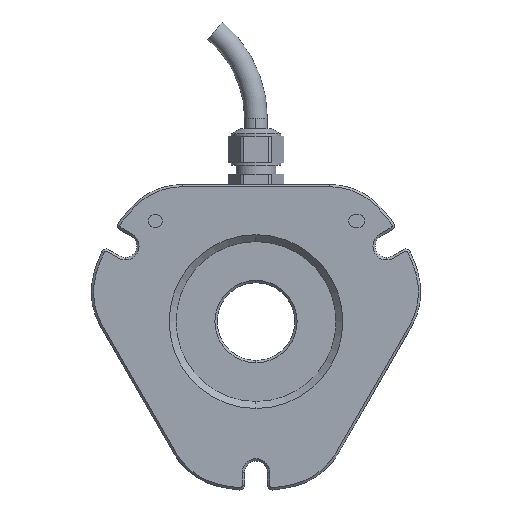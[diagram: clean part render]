
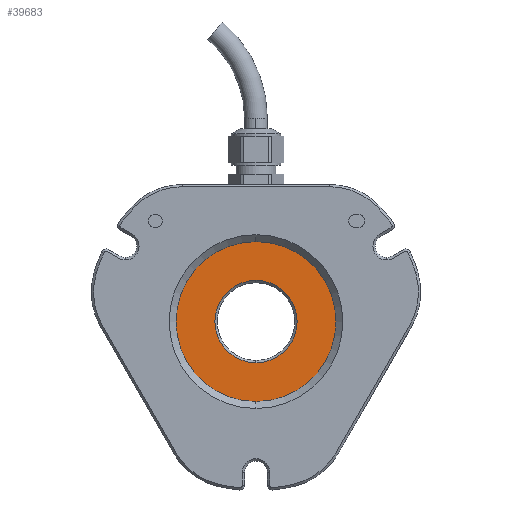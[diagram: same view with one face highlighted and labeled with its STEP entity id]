
A CAD part, front view. The second image highlights one B-rep face of the part: STEP entity #39683.
In plain terms, the highlighted planar face has unit normal (0, -1, 0).
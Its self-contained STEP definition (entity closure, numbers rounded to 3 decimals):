
#4431 = DIRECTION ( 'NONE',  ( 0., 0., -1. ) ) ;
#5015 = EDGE_CURVE ( 'NONE', #9384, #38655, #26727, .T. ) ;
#5273 = DIRECTION ( 'NONE',  ( 0., -1., 0. ) ) ;
#6648 = DIRECTION ( 'NONE',  ( 0., 0., -1. ) ) ;
#6663 = AXIS2_PLACEMENT_3D ( 'NONE', #31784, #5273, #22882 ) ;
#7588 = ORIENTED_EDGE ( 'NONE', *, *, #11031, .T. ) ;
#9384 = VERTEX_POINT ( 'NONE', #37790 ) ;
#10709 = AXIS2_PLACEMENT_3D ( 'NONE', #26912, #30687, #4431 ) ;
#11031 = EDGE_CURVE ( 'NONE', #46065, #16338, #21325, .T. ) ;
#13246 = DIRECTION ( 'NONE',  ( 0., 1., 0. ) ) ;
#16338 = VERTEX_POINT ( 'NONE', #37434 ) ;
#17331 = CARTESIAN_POINT ( 'NONE',  ( 0., 1.5, 0. ) ) ;
#18829 = PLANE ( 'NONE',  #6663 ) ;
#19667 = CARTESIAN_POINT ( 'NONE',  ( 0., 1.5, 0. ) ) ;
#21325 = CIRCLE ( 'NONE', #48868, 9. ) ;
#22882 = DIRECTION ( 'NONE',  ( 0., 0., -1. ) ) ;
#23272 = CARTESIAN_POINT ( 'NONE',  ( 0., 1.5, 0. ) ) ;
#26591 = EDGE_CURVE ( 'NONE', #38655, #9384, #40182, .T. ) ;
#26727 = CIRCLE ( 'NONE', #39604, 17.5 ) ;
#26912 = CARTESIAN_POINT ( 'NONE',  ( 0., 1.5, 0. ) ) ;
#28230 = ORIENTED_EDGE ( 'NONE', *, *, #5015, .T. ) ;
#28828 = CARTESIAN_POINT ( 'NONE',  ( 0., 1.5, 9. ) ) ;
#29998 = DIRECTION ( 'NONE',  ( 0., 0., -1. ) ) ;
#30687 = DIRECTION ( 'NONE',  ( 0., -1., 0. ) ) ;
#31493 = FACE_BOUND ( 'NONE', #41115, .T. ) ;
#31600 = DIRECTION ( 'NONE',  ( 0., 0., -1. ) ) ;
#31784 = CARTESIAN_POINT ( 'NONE',  ( 0., 1.5, 0. ) ) ;
#31935 = AXIS2_PLACEMENT_3D ( 'NONE', #17331, #13246, #29998 ) ;
#32039 = DIRECTION ( 'NONE',  ( 0., 1., 0. ) ) ;
#37434 = CARTESIAN_POINT ( 'NONE',  ( 0., 1.5, -9. ) ) ;
#37790 = CARTESIAN_POINT ( 'NONE',  ( 0., 1.5, 17.5 ) ) ;
#38655 = VERTEX_POINT ( 'NONE', #43910 ) ;
#39604 = AXIS2_PLACEMENT_3D ( 'NONE', #23272, #44566, #31600 ) ;
#39683 = ADVANCED_FACE ( 'NONE', ( #31493, #52818 ), #18829, .T. ) ;
#40182 = CIRCLE ( 'NONE', #10709, 17.5 ) ;
#41115 = EDGE_LOOP ( 'NONE', ( #41239, #7588 ) ) ;
#41239 = ORIENTED_EDGE ( 'NONE', *, *, #43377, .T. ) ;
#43377 = EDGE_CURVE ( 'NONE', #16338, #46065, #47540, .T. ) ;
#43910 = CARTESIAN_POINT ( 'NONE',  ( 0., 1.5, -17.5 ) ) ;
#44566 = DIRECTION ( 'NONE',  ( 0., -1., 0. ) ) ;
#46065 = VERTEX_POINT ( 'NONE', #28828 ) ;
#47540 = CIRCLE ( 'NONE', #31935, 9. ) ;
#48868 = AXIS2_PLACEMENT_3D ( 'NONE', #19667, #32039, #6648 ) ;
#52818 = FACE_OUTER_BOUND ( 'NONE', #55429, .T. ) ;
#55362 = ORIENTED_EDGE ( 'NONE', *, *, #26591, .T. ) ;
#55429 = EDGE_LOOP ( 'NONE', ( #55362, #28230 ) ) ;
